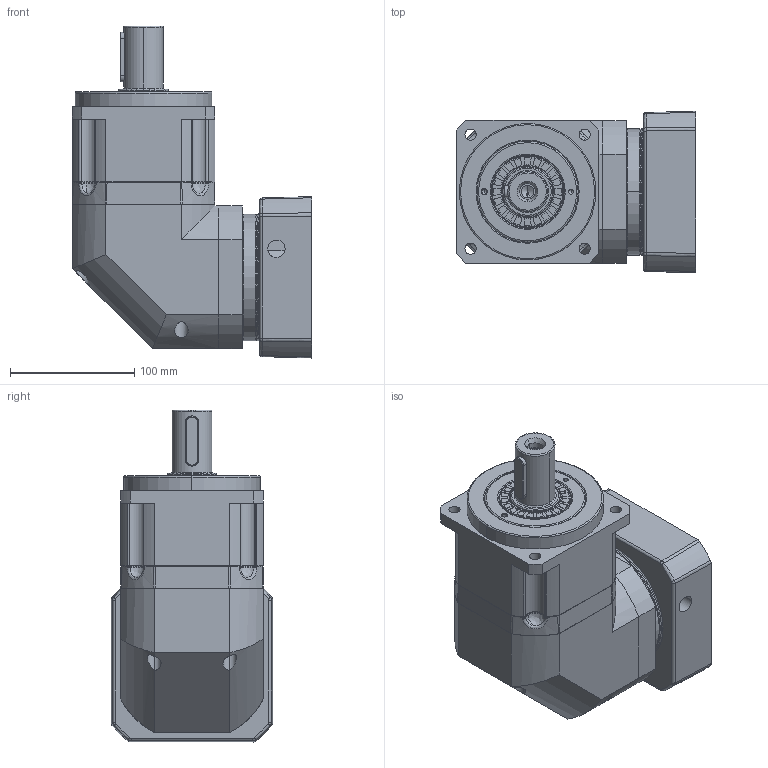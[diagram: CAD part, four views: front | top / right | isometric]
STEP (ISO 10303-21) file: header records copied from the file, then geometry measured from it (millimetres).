
FILE_DESCRIPTION (( 'STEP AP214' ), '1' );
FILE_NAME ('PAR115-L1-S2-P2 22-110-148-M8.STEP', '2021-04-25T08:38:04', ( 'User' ), ( 'china' ), 'SwSTEP 2.0', 'SolidWorks 2016', '' );
FILE_SCHEMA (( 'AUTOMOTIVE_DESIGN' ));
Length unit declared in the file: millimetre
Products named in the file (14): 珨撰眻褒眊极PAR115D; PAR115-L1-S2-P2 22-110-148-M8; M8-16; M6-14樓粟菜; す瑩10X40; 蚐猾40x58X5; 隅弇覃淕杶PAR115D; 怀堤俴陎殤PAR115D; 输入轴PAR115D-22; 输入锁紧环26X63.5X16; 镂空输入法兰-110X44.5XM8; 输入端壳体PAR115D; 输出内齿圈壳体PAR115D; 怀堤傷褲极PAR115D
Assembly tree (28 placements, depth 2):
  PAR115-L1-S2-P2 22-110-148-M8
    珨撰眻褒眊极PAR115D
    怀堤傷褲极PAR115D
    输出内齿圈壳体PAR115D
    输入端壳体PAR115D
    镂空输入法兰-110X44.5XM8
    输入锁紧环26X63.5X16
    输入轴PAR115D-22
    怀堤俴陎殤PAR115D
    隅弇覃淕杶PAR115D
    蚐猾40x58X5
    す瑩10X40
    M6-14樓粟菜  x16
    M8-16
Bounding box: 193.01 x 130 x 267.5 mm (x, y, z)
Volume: 2935342.4 mm3; surface area: 361093 mm2
Topology: 12 solids, 44 shells, 1575 faces, 3750 edges, 2268 vertices
Faces by surface type: plane 451, bspline 432, cylinder 368, cone 247, torus 77
Entity records: 67662 total; most frequent: CARTESIAN_POINT 28626, ORIENTED_EDGE 5559, DIRECTION 4735, EDGE_CURVE 2783, AXIS2_PLACEMENT_3D 1951, VERTEX_POINT 1683, EDGE_LOOP 1359, UNCERTAINTY_MEASURE_WITH_UNIT 1255
